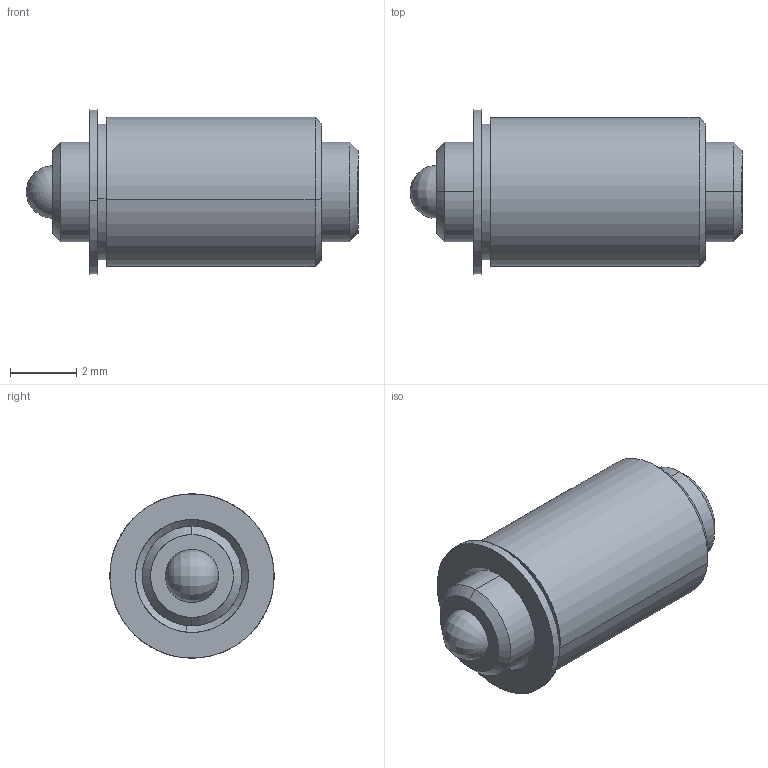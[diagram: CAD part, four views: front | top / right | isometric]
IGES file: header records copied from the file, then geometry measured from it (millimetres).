
Start section: SolidWorks IGES file using analytic representation for surfaces
Global section: file name: C:\Users\workpc\Desktop\KMA Solidworks\TSBM3-25-10_7.IGS; native system: SolidWorks 2013; preprocessor: SolidWorks 2013; author: workpc; date: 130314.161149; units: inch
Bounding box: 10 x 4.95 x 4.95 mm (x, y, z)
Surface area: 241.1 mm2 (no closed solid volume)
Topology: 0 solids, 0 shells, 32 faces, 446 edges, 442 vertices
Faces by surface type: revolution 20, bspline 12
